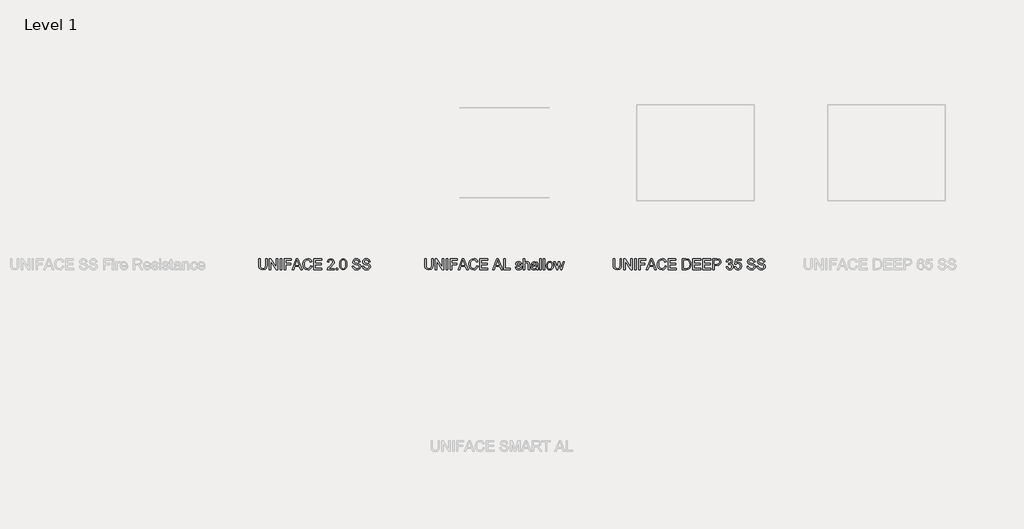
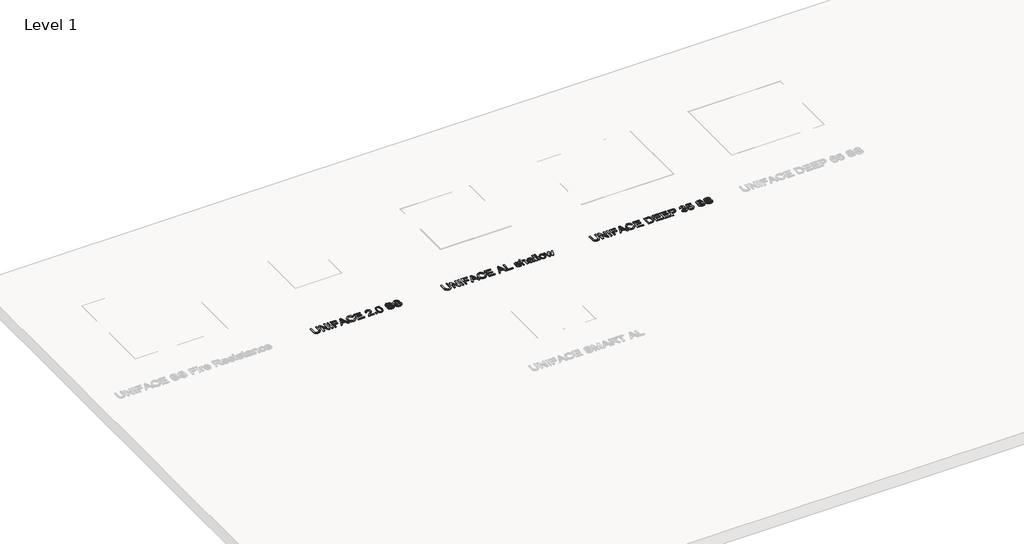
# One storey, part 5 of 9: 3 proxies.
"""IFC4 building model written with IfcOpenShell, lengths in millimetres."""

from ifc_helpers import new_model, si_unit, origin, origin_with_axes, place, context, project, spatial, polyline, outline, extrude, element, save

model = new_model("IFC4")

# Units and contexts
model_context = context("Model", 3, world=origin())
ifc_project = project(units=[si_unit("LENGTHUNIT", "METRE", prefix="MILLI")], contexts=[model_context])

# Site, building, storey
site = spatial("IfcSite", under=ifc_project)
building = spatial("IfcBuilding", under=site)
storey = spatial("IfcBuildingStorey", under=building, Name="Level 1", Elevation=0.0)

# Proxies
placement = place(None, origin())
element("IfcBuildingElementProxy", 1, Name="100mm ACO", ObjectType="100mm ACO", at=placement, inside=storey, context=model_context, shape_type="SweptSolid", body=[
    extrude(outline(polyline([(2159.7357905, -11847.3956492), (2158.8917656, -11861.7586247), (2154.4097023, -11875.3212318), (2142.5933536, -11886.9338503), (2120.7942276, -11891.5759873), (2099.3443533, -11887.4577279), (2087.3970352, -11876.8055515), (2082.5511681, -11863.1992879), (2081.503413, -11847.3956492), (2081.503413, -11789.1288264), (2094.5421426, -11789.1288264), (2094.5421426, -11847.7449008), (2095.8372842, -11863.5048831), (2102.6622443, -11875.2630232), (2109.6982105, -11879.1157058), (2119.7464725, -11880.3999334), (2137.2818176, -11876.3107783), (2144.9216982, -11865.3821109), (2146.6970609, -11847.7449008), (2146.6970609, -11789.1288264), (2159.7357905, -11789.1288264), (2159.7357905, -11847.3956492)])), origin_with_axes(), (0.0, 0.0, 1.0), 10.0),
    extrude(outline(polyline([(2260.3202758, -11889.7133117), (2246.3502084, -11889.7133117), (2195.3885667, -11811.0152653), (2195.3885667, -11889.7133117), (2182.0878983, -11889.7133117), (2182.0878983, -11789.1288264), (2196.08707, -11789.1288264), (2247.0196075, -11867.7686641), (2247.0196075, -11789.1288264), (2260.3202758, -11789.1288264), (2260.3202758, -11889.7133117)])), origin_with_axes(), (0.0, 0.0, 1.0), 10.0),
    extrude(outline(polyline([(2297.5737889, -11889.7133117), (2284.5350593, -11889.7133117), (2284.5350593, -11789.1288264), (2297.5737889, -11789.1288264), (2297.5737889, -11889.7133117)])), origin_with_axes(), (0.0, 0.0, 1.0), 10.0),
    extrude(outline(polyline([(2388.8448959, -11800.3048803), (2334.827302, -11800.3048803), (2334.827302, -11831.9703664), (2381.3941933, -11831.9703664), (2381.3941933, -11843.1464203), (2334.827302, -11843.1464203), (2334.827302, -11889.7133117), (2321.7885724, -11889.7133117), (2321.7885724, -11789.1288264), (2388.8448959, -11789.1288264), (2388.8448959, -11800.3048803)])), origin_with_axes(), (0.0, 0.0, 1.0), 10.0),
    extrude(outline(polyline([(2489.8950502, -11889.7133117), (2476.0122957, -11889.7133117), (2463.9631125, -11859.9105012), (2421.267094, -11859.9105012), (2409.6835798, -11889.7133117), (2395.8299296, -11889.7133117), (2434.9170141, -11789.1288264), (2449.1781245, -11789.1288264), (2489.8950502, -11889.7133117)]), holes=[polyline([(2459.4228406, -11848.7344473), (2444.9143435, -11811.8592902), (2441.9311521, -11800.1302544), (2437.2453586, -11818.8152196), (2425.6327401, -11848.7344473), (2459.4228406, -11848.7344473)])]), origin_with_axes(), (0.0, 0.0, 1.0), 10.0),
    extrude(outline(polyline([(2584.4258396, -11857.6985739), (2578.4776468, -11872.6108932), (2569.3061521, -11883.1793947), (2557.449785, -11889.4768392), (2543.4469752, -11891.5759873), (2522.4191133, -11887.6978384), (2507.9979292, -11876.0633916), (2499.6595452, -11858.9718873), (2496.8800839, -11838.7225656), (2500.1434043, -11817.2108447), (2509.9333656, -11800.9306229), (2524.852961, -11790.6822687), (2543.5051838, -11787.2661507), (2556.8968031, -11789.0888079), (2568.2001884, -11794.5567796), (2576.9205664, -11803.5390964), (2582.5631639, -11815.9047889), (2569.5244344, -11818.9316368), (2559.6144178, -11803.5791148), (2543.0104106, -11798.4422046), (2528.7056437, -11801.1670954), (2518.3299582, -11809.3417676), (2512.0215996, -11822.1003683), (2509.9188134, -11838.5770441), (2512.1452929, -11857.047365), (2518.8247314, -11870.0824565), (2529.0839997, -11877.8205642), (2542.0499685, -11880.3999334), (2552.6803166, -11878.7737302), (2561.1132896, -11873.8951208), (2567.3488874, -11865.7495528), (2571.38711, -11854.3224742), (2584.4258396, -11857.6985739)])), origin_with_axes(), (0.0, 0.0, 1.0), 10.0),
    extrude(outline(polyline([(2675.6969466, -11889.7133117), (2601.1899205, -11889.7133117), (2601.1899205, -11789.1288264), (2673.834271, -11789.1288264), (2673.834271, -11800.3048803), (2614.2286501, -11800.3048803), (2614.2286501, -11831.9703664), (2670.1089197, -11831.9703664), (2670.1089197, -11843.1464203), (2614.2286501, -11843.1464203), (2614.2286501, -11878.5372577), (2675.6969466, -11878.5372577), (2675.6969466, -11889.7133117)])), origin_with_axes(), (0.0, 0.0, 1.0), 10.0),
    extrude(outline(polyline([(2793.0455129, -11889.7133117), (2725.9891893, -11889.7133117), (2731.9846766, -11874.0260901), (2754.1330543, -11852.2851727), (2772.0030988, -11834.8516928), (2778.0058622, -11825.771149), (2780.0067833, -11816.6323966), (2774.5497257, -11803.593667), (2760.7688363, -11798.4422046), (2746.6532473, -11803.5791148), (2742.3603621, -11809.9857004), (2740.8905945, -11818.9316368), (2727.851865, -11817.5346301), (2731.0096823, -11805.3617536), (2738.0965811, -11796.4340074), (2748.3704015, -11790.9551216), (2761.0889837, -11789.1288264), (2774.5242594, -11791.2279745), (2784.619816, -11797.5254189), (2790.9390886, -11806.7915027), (2793.0455129, -11817.7965688), (2791.2847023, -11827.7575179), (2786.0022705, -11837.8494364), (2758.4113874, -11865.5276325), (2742.7532702, -11880.3999334), (2793.0455129, -11880.3999334), (2793.0455129, -11889.7133117)])), origin_with_axes(), (0.0, 0.0, 1.0), 10.0),
    extrude(outline(polyline([(2828.4363503, -11889.7133117), (2813.5349451, -11889.7133117), (2813.5349451, -11874.8119064), (2828.4363503, -11874.8119064), (2828.4363503, -11889.7133117)])), origin_with_axes(), (0.0, 0.0, 1.0), 10.0),
    extrude(outline(polyline([(2878.6994886, -11789.1288264), (2893.3807925, -11792.3339382), (2903.8674382, -11801.9492736), (2910.1594256, -11817.9748327), (2912.2567547, -11840.4106155), (2910.0884838, -11863.0137479), (2903.5836712, -11878.9592702), (2893.0260838, -11888.421808), (2878.6994886, -11891.5759873), (2864.043651, -11888.3781516), (2853.5751955, -11878.7846444), (2847.2941223, -11862.7954656), (2845.2004312, -11840.4106155), (2847.368702, -11817.811121), (2853.8735147, -11801.8183042), (2864.4165499, -11792.3011958), (2878.6994886, -11789.1288264)]), holes=[polyline([(2878.7285929, -11882.2626091), (2887.6199588, -11879.8142092), (2894.0374585, -11872.4690097), (2897.9228835, -11859.5576115), (2899.2180251, -11840.4106155), (2896.9478892, -11816.0503104), (2890.0938249, -11802.8078507), (2878.5830714, -11798.4422046), (2869.7098958, -11800.9342609), (2863.3469666, -11808.4104298), (2859.5161122, -11821.3945888), (2858.2391607, -11840.4106155), (2860.5529532, -11864.6108468), (2867.4070175, -11877.896963), (2878.7285929, -11882.2626091)])]), origin_with_axes(), (0.0, 0.0, 1.0), 10.0),
    extrude(outline(polyline([(3025.8799696, -11818.9316368), (3023.8572203, -11809.9857004), (3019.3606048, -11803.5791148), (3012.3901233, -11799.7264322), (3002.9457756, -11798.4422046), (2987.2294498, -11802.4440468), (2982.6891779, -11807.3590367), (2981.1757539, -11814.1003218), (2985.6723694, -11824.2140686), (3003.9644264, -11830.5442553), (3023.9154289, -11836.0595215), (3037.1433365, -11845.0382003), (3041.268872, -11852.1614794), (3042.6440505, -11861.3657166), (3040.1228899, -11873.2730162), (3032.5594081, -11882.9756646), (3020.9431515, -11889.4259066), (3006.2636666, -11891.5759873), (2988.1753398, -11889.1894341), (2975.2966839, -11882.0297746), (2967.438521, -11871.072003), (2964.411673, -11857.2911136), (2977.4504026, -11856.1851499), (2980.0952565, -11867.1247313), (2986.3417684, -11874.6227284), (2995.2294962, -11878.9556322), (3005.7979977, -11880.3999334), (3023.0277475, -11875.6413792), (3027.9609276, -11870.035162), (3029.6053209, -11862.733619), (3027.906357, -11855.3629532), (3022.8094652, -11850.3060799), (2999.3950502, -11842.8117208), (2985.1011973, -11838.4460747), (2975.4567576, -11832.5379004), (2969.9669576, -11824.8652774), (2968.1370243, -11815.2062855), (2970.4326266, -11804.1466488), (2977.3194332, -11795.1825222), (2988.1644257, -11789.2452436), (3002.3345852, -11787.2661507), (3016.9813277, -11789.2597957), (3028.4411486, -11795.2407308), (3035.9937163, -11804.8888086), (3038.9186992, -11817.8838818), (3025.8799696, -11818.9316368)])), origin_with_axes(), (0.0, 0.0, 1.0), 10.0),
    extrude(outline(polyline([(3119.0137523, -11818.9316368), (3116.991003, -11809.9857004), (3112.4943875, -11803.5791148), (3105.523906, -11799.7264322), (3096.0795583, -11798.4422046), (3080.3632325, -11802.4440468), (3075.8229606, -11807.3590367), (3074.3095366, -11814.1003218), (3078.8061521, -11824.2140686), (3097.0982091, -11830.5442553), (3117.0492116, -11836.0595215), (3130.2771192, -11845.0382003), (3134.4026547, -11852.1614794), (3135.7778332, -11861.3657166), (3133.2566726, -11873.2730162), (3125.6931908, -11882.9756646), (3114.0769342, -11889.4259066), (3099.3974493, -11891.5759873), (3081.3091225, -11889.1894341), (3068.4304666, -11882.0297746), (3060.5723037, -11871.072003), (3057.5454557, -11857.2911136), (3070.5841853, -11856.1851499), (3073.2290392, -11867.1247313), (3079.4755511, -11874.6227284), (3088.3632789, -11878.9556322), (3098.9317804, -11880.3999334), (3116.1615302, -11875.6413792), (3121.0947103, -11870.035162), (3122.7391036, -11862.733619), (3121.0401397, -11855.3629532), (3115.9432479, -11850.3060799), (3092.5288329, -11842.8117208), (3078.23498, -11838.4460747), (3068.5905403, -11832.5379004), (3063.1007403, -11824.8652774), (3061.270807, -11815.2062855), (3063.5664093, -11804.1466488), (3070.4532159, -11795.1825222), (3081.2982084, -11789.2452436), (3095.4683679, -11787.2661507), (3110.1151104, -11789.2597957), (3121.5749313, -11795.2407308), (3129.127499, -11804.8888086), (3132.0524819, -11817.8838818), (3119.0137523, -11818.9316368)])), origin_with_axes(), (0.0, 0.0, 1.0), 10.0),
])
element("IfcBuildingElementProxy", 2, Name="100mm ACO", ObjectType="100mm ACO", at=placement, inside=storey, context=model_context, shape_type="SweptSolid", body=[
    extrude(outline(polyline([(3724.6433876, -11847.3956492), (3723.7993627, -11861.7586247), (3719.3172994, -11875.3212318), (3707.5009507, -11886.9338503), (3685.7018247, -11891.5759873), (3664.2519504, -11887.4577279), (3652.3046323, -11876.8055515), (3647.4587652, -11863.1992879), (3646.4110101, -11847.3956492), (3646.4110101, -11789.1288264), (3659.4497397, -11789.1288264), (3659.4497397, -11847.7449008), (3660.7448814, -11863.5048831), (3667.5698414, -11875.2630232), (3674.6058076, -11879.1157058), (3684.6540696, -11880.3999334), (3702.1894147, -11876.3107783), (3709.8292953, -11865.3821109), (3711.604658, -11847.7449008), (3711.604658, -11789.1288264), (3724.6433876, -11789.1288264), (3724.6433876, -11847.3956492)])), origin_with_axes(), (0.0, 0.0, 1.0), 10.0),
    extrude(outline(polyline([(3825.2278729, -11889.7133117), (3811.2578055, -11889.7133117), (3760.2961638, -11811.0152653), (3760.2961638, -11889.7133117), (3746.9954954, -11889.7133117), (3746.9954954, -11789.1288264), (3760.9946671, -11789.1288264), (3811.9272046, -11867.7686641), (3811.9272046, -11789.1288264), (3825.2278729, -11789.1288264), (3825.2278729, -11889.7133117)])), origin_with_axes(), (0.0, 0.0, 1.0), 10.0),
    extrude(outline(polyline([(3862.481386, -11889.7133117), (3849.4426564, -11889.7133117), (3849.4426564, -11789.1288264), (3862.481386, -11789.1288264), (3862.481386, -11889.7133117)])), origin_with_axes(), (0.0, 0.0, 1.0), 10.0),
    extrude(outline(polyline([(3953.752493, -11800.3048803), (3899.7348991, -11800.3048803), (3899.7348991, -11831.9703664), (3946.3017904, -11831.9703664), (3946.3017904, -11843.1464203), (3899.7348991, -11843.1464203), (3899.7348991, -11889.7133117), (3886.6961695, -11889.7133117), (3886.6961695, -11789.1288264), (3953.752493, -11789.1288264), (3953.752493, -11800.3048803)])), origin_with_axes(), (0.0, 0.0, 1.0), 10.0),
    extrude(outline(polyline([(4054.8026473, -11889.7133117), (4040.9198928, -11889.7133117), (4028.8707096, -11859.9105012), (3986.1746911, -11859.9105012), (3974.5911769, -11889.7133117), (3960.7375267, -11889.7133117), (3999.8246112, -11789.1288264), (4014.0857216, -11789.1288264), (4054.8026473, -11889.7133117)]), holes=[polyline([(4024.3304377, -11848.7344473), (4009.8219406, -11811.8592902), (4006.8387492, -11800.1302544), (4002.1529557, -11818.8152196), (3990.5403372, -11848.7344473), (4024.3304377, -11848.7344473)])]), origin_with_axes(), (0.0, 0.0, 1.0), 10.0),
    extrude(outline(polyline([(4149.3334367, -11857.6985739), (4143.3852439, -11872.6108932), (4134.2137492, -11883.1793947), (4122.3573821, -11889.4768392), (4108.3545723, -11891.5759873), (4087.3267104, -11887.6978384), (4072.9055263, -11876.0633916), (4064.5671423, -11858.9718873), (4061.787681, -11838.7225656), (4065.0510014, -11817.2108447), (4074.8409627, -11800.9306229), (4089.7605581, -11790.6822687), (4108.4127809, -11787.2661507), (4121.8044002, -11789.0888079), (4133.1077855, -11794.5567796), (4141.8281635, -11803.5390964), (4147.4707611, -11815.9047889), (4134.4320315, -11818.9316368), (4124.5220149, -11803.5791148), (4107.9180077, -11798.4422046), (4093.6132408, -11801.1670954), (4083.2375553, -11809.3417676), (4076.9291967, -11822.1003683), (4074.8264105, -11838.5770441), (4077.05289, -11857.047365), (4083.7323285, -11870.0824565), (4093.9915968, -11877.8205642), (4106.9575656, -11880.3999334), (4117.5879137, -11878.7737302), (4126.0208867, -11873.8951208), (4132.2564845, -11865.7495528), (4136.2947071, -11854.3224742), (4149.3334367, -11857.6985739)])), origin_with_axes(), (0.0, 0.0, 1.0), 10.0),
    extrude(outline(polyline([(4240.6045438, -11889.7133117), (4166.0975176, -11889.7133117), (4166.0975176, -11789.1288264), (4238.7418681, -11789.1288264), (4238.7418681, -11800.3048803), (4179.1362472, -11800.3048803), (4179.1362472, -11831.9703664), (4235.0165168, -11831.9703664), (4235.0165168, -11843.1464203), (4179.1362472, -11843.1464203), (4179.1362472, -11878.5372577), (4240.6045438, -11878.5372577), (4240.6045438, -11889.7133117)])), origin_with_axes(), (0.0, 0.0, 1.0), 10.0),
    extrude(outline(polyline([(4380.7708867, -11889.7133117), (4366.8881322, -11889.7133117), (4354.8389491, -11859.9105012), (4312.1429306, -11859.9105012), (4300.5594164, -11889.7133117), (4286.7057662, -11889.7133117), (4325.7928506, -11789.1288264), (4340.0539611, -11789.1288264), (4380.7708867, -11889.7133117)]), holes=[polyline([(4350.2986772, -11848.7344473), (4335.7901801, -11811.8592902), (4332.8069886, -11800.1302544), (4328.1211952, -11818.8152196), (4316.5085767, -11848.7344473), (4350.2986772, -11848.7344473)])]), origin_with_axes(), (0.0, 0.0, 1.0), 10.0),
    extrude(outline(polyline([(4454.812244, -11889.7133117), (4391.4812717, -11889.7133117), (4391.4812717, -11789.1288264), (4404.5200013, -11789.1288264), (4404.5200013, -11878.5372577), (4454.812244, -11878.5372577), (4454.812244, -11889.7133117)])), origin_with_axes(), (0.0, 0.0, 1.0), 10.0),
    extrude(outline(polyline([(4547.9460267, -11837.5583934), (4543.1292639, -11827.7793462), (4531.9968664, -11824.5196638), (4520.6170823, -11827.3136773), (4516.2805406, -11835.4337789), (4519.1473148, -11842.6225428), (4532.6662655, -11846.5225199), (4550.4926535, -11850.7135402), (4559.5877495, -11857.0728313), (4562.8474319, -11868.4671675), (4560.8246826, -11877.4494843), (4554.7564345, -11884.8965488), (4545.3048108, -11889.9061277), (4533.1319344, -11891.5759873), (4520.58434, -11890.1717045), (4511.114526, -11885.9588561), (4504.7152165, -11878.944718), (4501.3791353, -11869.1365666), (4514.4178649, -11867.3612038), (4520.0495483, -11878.5518099), (4533.1319344, -11882.2626091), (4545.5012649, -11878.4062884), (4549.8087023, -11869.0201493), (4547.8732659, -11863.0101099), (4543.0419509, -11859.6194581), (4529.3774787, -11856.7090274), (4516.1241049, -11853.4638972), (4508.3205126, -11848.8508645), (4503.241811, -11836.1904909), (4505.1226768, -11827.855745), (4510.7652744, -11821.129012), (4519.5875174, -11816.6869671), (4531.0073199, -11815.2062855), (4543.0092086, -11816.5014272), (4552.0060775, -11820.3868522), (4557.9979267, -11826.8552844), (4560.9847563, -11835.8994479), (4547.9460267, -11837.5583934)])), origin_with_axes(), (0.0, 0.0, 1.0), 10.0),
    extrude(outline(polyline([(4635.4917824, -11889.7133117), (4622.4530528, -11889.7133117), (4622.4530528, -11842.73896), (4618.7422537, -11829.0744878), (4607.6680648, -11824.5196638), (4594.6584396, -11829.8894084), (4590.3582782, -11837.3655773), (4588.9248911, -11849.0545947), (4588.9248911, -11889.7133117), (4575.8861615, -11889.7133117), (4575.8861615, -11789.1288264), (4588.9248911, -11789.1288264), (4588.9248911, -11825.1599585), (4598.68211, -11817.6947038), (4610.6075998, -11815.2062855), (4623.9664768, -11818.0876119), (4632.9160512, -11826.9498734), (4635.4917824, -11843.5538806), (4635.4917824, -11889.7133117)])), origin_with_axes(), (0.0, 0.0, 1.0), 10.0),
    extrude(outline(polyline([(4717.4495112, -11889.7133117), (4704.4107816, -11889.7133117), (4700.6854303, -11880.9238109), (4688.1196457, -11888.9129432), (4674.5788668, -11891.5759873), (4664.5342429, -11890.120772), (4656.868896, -11885.7551259), (4652.0121147, -11879.0029267), (4650.3931876, -11870.3880518), (4651.9793724, -11862.0314776), (4656.7379266, -11855.2974685), (4665.4182862, -11850.3752026), (4678.7698871, -11847.4538578), (4690.1787754, -11845.7075993), (4700.6854303, -11843.1464203), (4700.3507308, -11835.0699751), (4698.4007422, -11830.1658994), (4693.2056234, -11826.0767442), (4683.5720977, -11824.5196638), (4671.4210495, -11827.6774811), (4665.2945929, -11839.421069), (4652.2558633, -11837.8203321), (4655.832055, -11827.953972), (4662.5442359, -11820.8816254), (4672.3851297, -11816.6251205), (4685.3474605, -11815.2062855), (4704.7163768, -11819.0917105), (4712.312601, -11828.4632974), (4713.7241599, -11842.5934385), (4713.7241599, -11859.2119978), (4714.2771417, -11879.5850128), (4717.4495112, -11889.7133117)]), holes=[polyline([(4700.6854303, -11857.1164877), (4700.6854303, -11852.4597986), (4677.2710153, -11857.8149911), (4666.8916917, -11861.8968702), (4663.4319172, -11870.1843216), (4667.1572685, -11878.8574051), (4677.8967579, -11882.2626091), (4693.8022617, -11876.5581649), (4698.9646382, -11868.8455235), (4700.6854303, -11857.1164877)])]), origin_with_axes(), (0.0, 0.0, 1.0), 10.0),
    extrude(outline(polyline([(4745.389646, -11889.7133117), (4732.3509164, -11889.7133117), (4732.3509164, -11789.1288264), (4745.389646, -11789.1288264), (4745.389646, -11889.7133117)])), origin_with_axes(), (0.0, 0.0, 1.0), 10.0),
    extrude(outline(polyline([(4777.0551321, -11889.7133117), (4764.0164025, -11889.7133117), (4764.0164025, -11789.1288264), (4777.0551321, -11789.1288264), (4777.0551321, -11889.7133117)])), origin_with_axes(), (0.0, 0.0, 1.0), 10.0),
    extrude(outline(polyline([(4825.4555948, -11815.2062855), (4838.7089687, -11817.6146669), (4849.4812003, -11824.8398112), (4856.6299458, -11836.5033622), (4859.0128609, -11852.2269641), (4856.4334917, -11870.6063341), (4848.695384, -11882.6700694), (4837.7266983, -11889.3495078), (4825.4555948, -11891.5759873), (4812.7915832, -11889.2876612), (4801.9247625, -11882.4226827), (4794.4485937, -11870.5881439), (4791.9565374, -11853.3911364), (4794.3649188, -11836.576123), (4801.590063, -11824.6651853), (4812.3732088, -11817.5710105), (4825.4555948, -11815.2062855)]), holes=[polyline([(4825.4555948, -11882.2626091), (4834.3142183, -11880.2434977), (4840.7499082, -11874.1861638), (4845.9741313, -11852.9254675), (4844.4970877, -11840.5706891), (4840.065957, -11831.6793233), (4833.4592793, -11826.3095787), (4825.4555948, -11824.5196638), (4817.2954747, -11826.3350449), (4810.7433676, -11831.7811884), (4806.4322921, -11840.8217138), (4804.9952669, -11853.4202407), (4806.4577584, -11865.9751112), (4810.8452327, -11875.0010844), (4817.4228061, -11880.4472279), (4825.4555948, -11882.2626091)])]), origin_with_axes(), (0.0, 0.0, 1.0), 10.0),
    extrude(outline(polyline([(4963.7883664, -11817.0689612), (4939.4280614, -11889.7133117), (4927.0878352, -11889.7133117), (4916.5229717, -11846.056851), (4915.2132779, -11840.1632288), (4913.9617927, -11833.7166248), (4901.1267933, -11889.7133117), (4888.8156714, -11889.7133117), (4864.135219, -11817.0689612), (4875.7478375, -11817.0689612), (4893.4723605, -11874.6372806), (4895.5969749, -11864.8291291), (4906.6857159, -11817.0689612), (4921.3542867, -11817.0689612), (4930.1437874, -11855.1664991), (4934.2183904, -11873.065648), (4952.1757479, -11817.0689612), (4963.7883664, -11817.0689612)])), origin_with_axes(), (0.0, 0.0, 1.0), 10.0),
])
element("IfcBuildingElementProxy", 3, Name="100mm ACO", ObjectType="100mm ACO", at=placement, inside=storey, context=model_context, shape_type="SweptSolid", body=[
    extrude(outline(polyline([(5500.531694, -11847.3956492), (5499.6876691, -11861.7586247), (5495.2056058, -11875.3212318), (5483.3892571, -11886.9338503), (5461.5901311, -11891.5759873), (5440.1402568, -11887.4577279), (5428.1929387, -11876.8055515), (5423.3470716, -11863.1992879), (5422.2993165, -11847.3956492), (5422.2993165, -11789.1288264), (5435.3380461, -11789.1288264), (5435.3380461, -11847.7449008), (5436.6331878, -11863.5048831), (5443.4581478, -11875.2630232), (5450.494114, -11879.1157058), (5460.542376, -11880.3999334), (5478.0777211, -11876.3107783), (5485.7176017, -11865.3821109), (5487.4929644, -11847.7449008), (5487.4929644, -11789.1288264), (5500.531694, -11789.1288264), (5500.531694, -11847.3956492)])), origin_with_axes(), (0.0, 0.0, 1.0), 10.0),
    extrude(outline(polyline([(5601.1161793, -11889.7133117), (5587.1461119, -11889.7133117), (5536.1844702, -11811.0152653), (5536.1844702, -11889.7133117), (5522.8838018, -11889.7133117), (5522.8838018, -11789.1288264), (5536.8829736, -11789.1288264), (5587.815511, -11867.7686641), (5587.815511, -11789.1288264), (5601.1161793, -11789.1288264), (5601.1161793, -11889.7133117)])), origin_with_axes(), (0.0, 0.0, 1.0), 10.0),
    extrude(outline(polyline([(5638.3696924, -11889.7133117), (5625.3309628, -11889.7133117), (5625.3309628, -11789.1288264), (5638.3696924, -11789.1288264), (5638.3696924, -11889.7133117)])), origin_with_axes(), (0.0, 0.0, 1.0), 10.0),
    extrude(outline(polyline([(5729.6407994, -11800.3048803), (5675.6232055, -11800.3048803), (5675.6232055, -11831.9703664), (5722.1900968, -11831.9703664), (5722.1900968, -11843.1464203), (5675.6232055, -11843.1464203), (5675.6232055, -11889.7133117), (5662.5844759, -11889.7133117), (5662.5844759, -11789.1288264), (5729.6407994, -11789.1288264), (5729.6407994, -11800.3048803)])), origin_with_axes(), (0.0, 0.0, 1.0), 10.0),
    extrude(outline(polyline([(5830.6909537, -11889.7133117), (5816.8081992, -11889.7133117), (5804.7590161, -11859.9105012), (5762.0629975, -11859.9105012), (5750.4794833, -11889.7133117), (5736.6258331, -11889.7133117), (5775.7129176, -11789.1288264), (5789.9740281, -11789.1288264), (5830.6909537, -11889.7133117)]), holes=[polyline([(5800.2187442, -11848.7344473), (5785.7102471, -11811.8592902), (5782.7270556, -11800.1302544), (5778.0412621, -11818.8152196), (5766.4286436, -11848.7344473), (5800.2187442, -11848.7344473)])]), origin_with_axes(), (0.0, 0.0, 1.0), 10.0),
    extrude(outline(polyline([(5925.2217431, -11857.6985739), (5919.2735504, -11872.6108932), (5910.1020556, -11883.1793947), (5898.2456885, -11889.4768392), (5884.2428787, -11891.5759873), (5863.2150169, -11887.6978384), (5848.7938327, -11876.0633916), (5840.4554487, -11858.9718873), (5837.6759874, -11838.7225656), (5840.9393078, -11817.2108447), (5850.7292691, -11800.9306229), (5865.6488645, -11790.6822687), (5884.3010873, -11787.2661507), (5897.6927066, -11789.0888079), (5908.9960919, -11794.5567796), (5917.7164699, -11803.5390964), (5923.3590675, -11815.9047889), (5910.3203379, -11818.9316368), (5900.4103213, -11803.5791148), (5883.8063141, -11798.4422046), (5869.5015472, -11801.1670954), (5859.1258617, -11809.3417676), (5852.8175031, -11822.1003683), (5850.714717, -11838.5770441), (5852.9411965, -11857.047365), (5859.6206349, -11870.0824565), (5869.8799032, -11877.8205642), (5882.845872, -11880.3999334), (5893.4762202, -11878.7737302), (5901.9091931, -11873.8951208), (5908.1447909, -11865.7495528), (5912.1830135, -11854.3224742), (5925.2217431, -11857.6985739)])), origin_with_axes(), (0.0, 0.0, 1.0), 10.0),
    extrude(outline(polyline([(6016.4928502, -11889.7133117), (5941.985824, -11889.7133117), (5941.985824, -11789.1288264), (6014.6301745, -11789.1288264), (6014.6301745, -11800.3048803), (5955.0245536, -11800.3048803), (5955.0245536, -11831.9703664), (6010.9048232, -11831.9703664), (6010.9048232, -11843.1464203), (5955.0245536, -11843.1464203), (5955.0245536, -11878.5372577), (6016.4928502, -11878.5372577), (6016.4928502, -11889.7133117)])), origin_with_axes(), (0.0, 0.0, 1.0), 10.0),
    extrude(outline(polyline([(6074.2357954, -11789.1288264), (6108.4624606, -11789.1288264), (6123.945952, -11790.0601642), (6136.3443868, -11794.5858839), (6146.690968, -11804.4959005), (6153.6614495, -11819.0043976), (6156.1935242, -11838.8680872), (6153.5886887, -11859.1210469), (6145.7741823, -11875.4085447), (6131.6076608, -11886.1371199), (6109.9467803, -11889.7133117), (6074.2357954, -11889.7133117), (6074.2357954, -11789.1288264)]), holes=[polyline([(6087.274525, -11878.5372577), (6108.7243994, -11878.5372577), (6120.438883, -11877.6932328), (6130.9018814, -11873.1384088), (6139.6768299, -11860.9728084), (6143.1547946, -11838.5770441), (6141.8159965, -11824.1995164), (6136.8973686, -11812.0193639), (6128.6754019, -11803.972023), (6119.6239624, -11800.8578621), (6108.3169391, -11800.3048803), (6087.274525, -11800.3048803), (6087.274525, -11878.5372577)])]), origin_with_axes(), (0.0, 0.0, 1.0), 10.0),
    extrude(outline(polyline([(6249.3273069, -11889.7133117), (6174.8202808, -11889.7133117), (6174.8202808, -11789.1288264), (6247.4646313, -11789.1288264), (6247.4646313, -11800.3048803), (6187.8590103, -11800.3048803), (6187.8590103, -11831.9703664), (6243.73928, -11831.9703664), (6243.73928, -11843.1464203), (6187.8590103, -11843.1464203), (6187.8590103, -11878.5372577), (6249.3273069, -11878.5372577), (6249.3273069, -11889.7133117)])), origin_with_axes(), (0.0, 0.0, 1.0), 10.0),
    extrude(outline(polyline([(6342.4610896, -11889.7133117), (6267.9540635, -11889.7133117), (6267.9540635, -11789.1288264), (6340.598414, -11789.1288264), (6340.598414, -11800.3048803), (6280.992793, -11800.3048803), (6280.992793, -11831.9703664), (6336.8730627, -11831.9703664), (6336.8730627, -11843.1464203), (6280.992793, -11843.1464203), (6280.992793, -11878.5372577), (6342.4610896, -11878.5372577), (6342.4610896, -11889.7133117)])), origin_with_axes(), (0.0, 0.0, 1.0), 10.0),
    extrude(outline(polyline([(6361.0878462, -11789.1288264), (6398.8652368, -11789.1288264), (6414.2614152, -11790.0165077), (6426.2523898, -11794.6295404), (6434.619878, -11804.7432871), (6437.457548, -11818.1167162), (6435.2201544, -11830.6206542), (6428.5079736, -11840.366959), (6416.8626127, -11846.6425752), (6399.8256789, -11848.7344473), (6374.1265758, -11848.7344473), (6374.1265758, -11889.7133117), (6361.0878462, -11889.7133117), (6361.0878462, -11789.1288264)]), holes=[polyline([(6374.1265758, -11837.5583934), (6400.3495564, -11837.5583934), (6418.4015029, -11832.7925631), (6422.9144895, -11826.8352752), (6424.4188184, -11818.4950722), (6421.2901054, -11807.4499877), (6413.6065683, -11801.4836047), (6400.0585134, -11800.3048803), (6374.1265758, -11800.3048803), (6374.1265758, -11837.5583934)])]), origin_with_axes(), (0.0, 0.0, 1.0), 10.0),
    extrude(outline(polyline([(6535.5099586, -11835.7975828), (6543.888361, -11839.0536271), (6549.9311428, -11844.8781266), (6554.8061142, -11860.4925873), (6552.2667634, -11872.872832), (6544.648711, -11882.830143), (6533.4944853, -11889.3895263), (6520.3466146, -11891.5759873), (6507.9954743, -11889.647827), (6498.0090589, -11883.8633459), (6491.0422154, -11874.9137715), (6487.7497906, -11863.490331), (6500.7885202, -11861.7731769), (6507.6571367, -11877.1548032), (6520.7831792, -11882.2626091), (6528.8996428, -11880.7273569), (6535.6700323, -11876.1216003), (6540.2430465, -11869.2893642), (6541.7673846, -11861.0746735), (6540.3376355, -11853.2710811), (6536.0483883, -11846.9154281), (6529.4526247, -11842.6916655), (6521.1033266, -11841.2837447), (6511.9645742, -11843.1464203), (6513.4197895, -11831.9703664), (6521.336161, -11831.4755932), (6527.8555258, -11829.0599357), (6533.8219088, -11823.5592216), (6536.1793577, -11814.682408), (6531.3625948, -11802.6914335), (6520.2010931, -11798.4422046), (6508.3992965, -11803.2735196), (6502.6511959, -11817.0689612), (6489.6124663, -11814.8279295), (6493.472425, -11803.5754768), (6500.2209862, -11795.5463261), (6509.2178552, -11790.7332013), (6519.8227371, -11789.1288264), (6531.3553188, -11791.0315204), (6540.8069425, -11796.7396027), (6547.115301, -11805.1980419), (6549.2180872, -11815.351807), (6545.7910551, -11827.4883031), (6535.5099586, -11835.7975828)])), origin_with_axes(), (0.0, 0.0, 1.0), 10.0),
    extrude(outline(polyline([(6583.5611696, -11827.2263643), (6602.3334477, -11822.6569881), (6613.8842196, -11824.8943817), (6623.8560828, -11831.6065626), (6630.7428894, -11842.0440947), (6633.0384917, -11855.4575422), (6630.6555765, -11869.3766771), (6623.5068311, -11881.0402282), (6612.4944889, -11888.9420475), (6598.5207835, -11891.5759873), (6586.7117108, -11889.7569681), (6576.6052402, -11884.2999105), (6569.3218874, -11875.2775754), (6565.9821681, -11862.7627233), (6579.0208977, -11861.7731769), (6585.8313056, -11877.1839075), (6598.666305, -11882.2626091), (6607.2811799, -11880.3781052), (6614.0915877, -11874.7245935), (6618.5227185, -11866.3134488), (6619.9997621, -11856.1560456), (6618.5190805, -11846.1296118), (6614.0770356, -11838.4606269), (6607.3066462, -11833.5929315), (6598.8409308, -11831.9703664), (6588.4434171, -11834.3350913), (6580.7671561, -11841.4292662), (6567.8448438, -11839.9158422), (6577.5947867, -11790.991502), (6629.3131404, -11790.991502), (6629.3131404, -11800.3048803), (6588.9454664, -11800.3048803), (6583.5611696, -11827.2263643)])), origin_with_axes(), (0.0, 0.0, 1.0), 10.0),
    extrude(outline(polyline([(6746.6617066, -11818.9316368), (6744.6389572, -11809.9857004), (6740.1423418, -11803.5791148), (6733.1718602, -11799.7264322), (6723.7275126, -11798.4422046), (6708.0111867, -11802.4440468), (6703.4709148, -11807.3590367), (6701.9574909, -11814.1003218), (6706.4541063, -11824.2140686), (6724.7461633, -11830.5442553), (6744.6971658, -11836.0595215), (6757.9250734, -11845.0382003), (6762.0506089, -11852.1614794), (6763.4257875, -11861.3657166), (6760.9046268, -11873.2730162), (6753.341145, -11882.9756646), (6741.7248885, -11889.4259066), (6727.0454036, -11891.5759873), (6708.9570767, -11889.1894341), (6696.0784208, -11882.0297746), (6688.2202579, -11871.072003), (6685.19341, -11857.2911136), (6698.2321396, -11856.1851499), (6700.8769935, -11867.1247313), (6707.1235054, -11874.6227284), (6716.0112332, -11878.9556322), (6726.5797347, -11880.3999334), (6743.8094845, -11875.6413792), (6748.7426645, -11870.035162), (6750.3870579, -11862.733619), (6748.6880939, -11855.3629532), (6743.5912022, -11850.3060799), (6720.1767871, -11842.8117208), (6705.8829343, -11838.4460747), (6696.2384945, -11832.5379004), (6690.7486946, -11824.8652774), (6688.9187613, -11815.2062855), (6691.2143635, -11804.1466488), (6698.1011702, -11795.1825222), (6708.9461626, -11789.2452436), (6723.1163221, -11787.2661507), (6737.7630647, -11789.2597957), (6749.2228856, -11795.2407308), (6756.7754533, -11804.8888086), (6759.7004361, -11817.8838818), (6746.6617066, -11818.9316368)])), origin_with_axes(), (0.0, 0.0, 1.0), 10.0),
    extrude(outline(polyline([(6839.7954893, -11818.9316368), (6837.7727399, -11809.9857004), (6833.2761245, -11803.5791148), (6826.3056429, -11799.7264322), (6816.8612953, -11798.4422046), (6801.1449694, -11802.4440468), (6796.6046975, -11807.3590367), (6795.0912736, -11814.1003218), (6799.587889, -11824.2140686), (6817.879946, -11830.5442553), (6837.8309485, -11836.0595215), (6851.0588561, -11845.0382003), (6855.1843916, -11852.1614794), (6856.5595702, -11861.3657166), (6854.0384096, -11873.2730162), (6846.4749277, -11882.9756646), (6834.8586712, -11889.4259066), (6820.1791863, -11891.5759873), (6802.0908594, -11889.1894341), (6789.2122035, -11882.0297746), (6781.3540406, -11871.072003), (6778.3271927, -11857.2911136), (6791.3659223, -11856.1851499), (6794.0107762, -11867.1247313), (6800.2572881, -11874.6227284), (6809.1450159, -11878.9556322), (6819.7135174, -11880.3999334), (6836.9432672, -11875.6413792), (6841.8764472, -11870.035162), (6843.5208406, -11862.733619), (6841.8218766, -11855.3629532), (6836.7249849, -11850.3060799), (6813.3105698, -11842.8117208), (6799.016717, -11838.4460747), (6789.3722772, -11832.5379004), (6783.8824773, -11824.8652774), (6782.052544, -11815.2062855), (6784.3481462, -11804.1466488), (6791.2349529, -11795.1825222), (6802.0799453, -11789.2452436), (6816.2501048, -11787.2661507), (6830.8968474, -11789.2597957), (6842.3566683, -11795.2407308), (6849.909236, -11804.8888086), (6852.8342188, -11817.8838818), (6839.7954893, -11818.9316368)])), origin_with_axes(), (0.0, 0.0, 1.0), 10.0),
])

save(model, "model.ifc")
